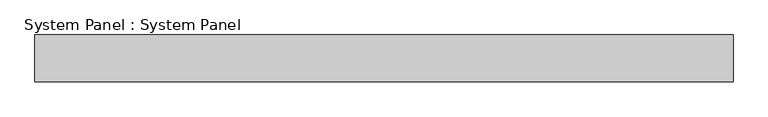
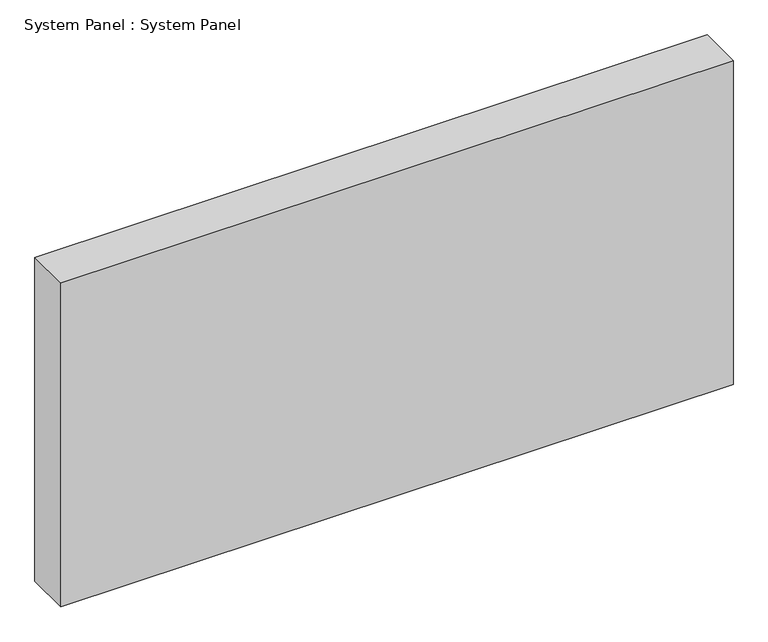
"""IFC4 building model written with IfcOpenShell, lengths in millimetres: plate geometry, System Panel : System Panel."""

from ifc_helpers import new_model, si_unit, origin, origin_with_axes, place, context, project, spatial, polyline, outline, extrude, source, transform, mapped, element, save


def system_panel_system_panel_d1642839(model_context):
    return source(origin(), model_context, "Body", "SweptSolid", [
        extrude(outline(polyline([(760.129494, -50.8), (-760.129494, -50.8), (-760.129494, 50.8), (760.129494, 50.8), (760.129494, -50.8)])), origin_with_axes(), (0.0, 0.0, 1.0), 774.7),
    ])


if __name__ == "__main__":
    model = new_model("IFC4")
    model_context = context("Model", 3, world=origin())
    ifc_project = project(units=[si_unit("LENGTHUNIT", "METRE", prefix="MILLI")], contexts=[model_context])
    site = spatial("IfcSite", under=ifc_project)
    building = spatial("IfcBuilding", under=site)
    placement = place(None, origin())
    system_panel_system_panel_shape = system_panel_system_panel_d1642839(model_context)
    element("IfcPlate", 1, ObjectType="System Panel : System Panel", at=placement, inside=building, context=model_context, shape_type="MappedRepresentation", body=[
        mapped(system_panel_system_panel_shape, transform((0.0, 0.0, 0.0), x_axis=(1.0, 0.0, 0.0), y_axis=(0.0, 1.0, 0.0), z_axis=(0.0, 0.0, 1.0))),
    ])
    save(model, "model.ifc")
